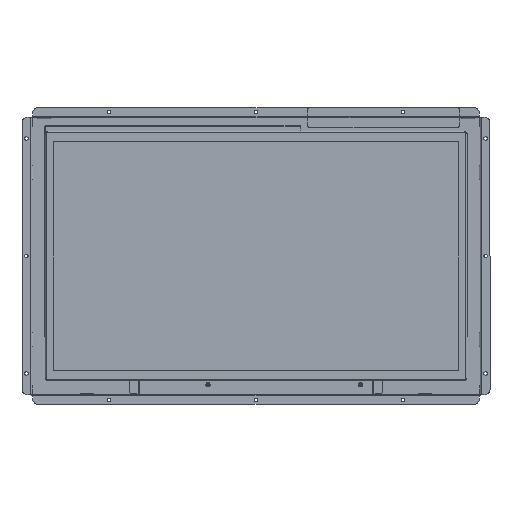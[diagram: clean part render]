
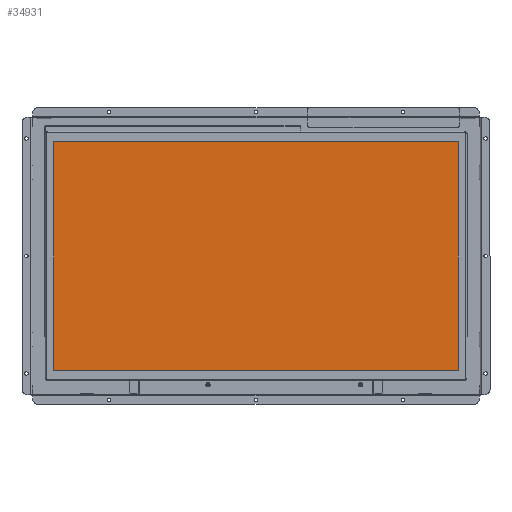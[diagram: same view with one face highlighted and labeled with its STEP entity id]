
A CAD part, top view. The second image highlights one B-rep face of the part: STEP entity #34931.
In plain terms, the highlighted planar face has unit normal (0, 0, 1).
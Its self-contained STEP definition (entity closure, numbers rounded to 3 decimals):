
#3032 = ORIENTED_EDGE ( 'NONE', *, *, #11939, .F. ) ;
#11207 = VERTEX_POINT ( 'NONE', #58148 ) ;
#11939 = EDGE_CURVE ( 'NONE', #21899, #11207, #48254, .T. ) ;
#12368 = PLANE ( 'NONE',  #37022 ) ;
#13353 = LINE ( 'NONE', #63866, #75567 ) ;
#18256 = VECTOR ( 'NONE', #74410, 1000. ) ;
#21899 = VERTEX_POINT ( 'NONE', #40882 ) ;
#24505 = DIRECTION ( 'NONE',  ( 0., 0., 1. ) ) ;
#25388 = FACE_OUTER_BOUND ( 'NONE', #25794, .T. ) ;
#25794 = EDGE_LOOP ( 'NONE', ( #26811, #46334, #39992, #3032 ) ) ;
#26380 = DIRECTION ( 'NONE',  ( 0., 1., 0. ) ) ;
#26811 = ORIENTED_EDGE ( 'NONE', *, *, #64659, .F. ) ;
#30210 = VERTEX_POINT ( 'NONE', #66318 ) ;
#32197 = VECTOR ( 'NONE', #61415, 1000. ) ;
#34931 = ADVANCED_FACE ( 'NONE', ( #25388 ), #12368, .T. ) ;
#36177 = LINE ( 'NONE', #73908, #18256 ) ;
#37022 = AXIS2_PLACEMENT_3D ( 'NONE', #42434, #24505, #66659 ) ;
#39662 = VERTEX_POINT ( 'NONE', #49532 ) ;
#39893 = DIRECTION ( 'NONE',  ( -1., 0., 0. ) ) ;
#39992 = ORIENTED_EDGE ( 'NONE', *, *, #54145, .F. ) ;
#40621 = EDGE_CURVE ( 'NONE', #30210, #39662, #48837, .T. ) ;
#40882 = CARTESIAN_POINT ( 'NONE',  ( 208.45, 119., -0.9 ) ) ;
#42434 = CARTESIAN_POINT ( 'NONE',  ( 0., 0., -0.9 ) ) ;
#43125 = VECTOR ( 'NONE', #26380, 1000. ) ;
#44289 = CARTESIAN_POINT ( 'NONE',  ( -208.7, 119., -0.9 ) ) ;
#46334 = ORIENTED_EDGE ( 'NONE', *, *, #40621, .F. ) ;
#48254 = LINE ( 'NONE', #62254, #32197 ) ;
#48837 = LINE ( 'NONE', #44289, #43125 ) ;
#49532 = CARTESIAN_POINT ( 'NONE',  ( -208.7, 119., -0.9 ) ) ;
#54145 = EDGE_CURVE ( 'NONE', #11207, #30210, #13353, .T. ) ;
#58148 = CARTESIAN_POINT ( 'NONE',  ( 208.45, -118.8, -0.9 ) ) ;
#61415 = DIRECTION ( 'NONE',  ( 0., -1., 0. ) ) ;
#62254 = CARTESIAN_POINT ( 'NONE',  ( 208.45, -118.8, -0.9 ) ) ;
#63866 = CARTESIAN_POINT ( 'NONE',  ( -208.7, -118.8, -0.9 ) ) ;
#64659 = EDGE_CURVE ( 'NONE', #39662, #21899, #36177, .T. ) ;
#66318 = CARTESIAN_POINT ( 'NONE',  ( -208.7, -118.8, -0.9 ) ) ;
#66659 = DIRECTION ( 'NONE',  ( 1., 0., 0. ) ) ;
#73908 = CARTESIAN_POINT ( 'NONE',  ( 208.45, 119., -0.9 ) ) ;
#74410 = DIRECTION ( 'NONE',  ( 1., 0., 0. ) ) ;
#75567 = VECTOR ( 'NONE', #39893, 1000. ) ;
